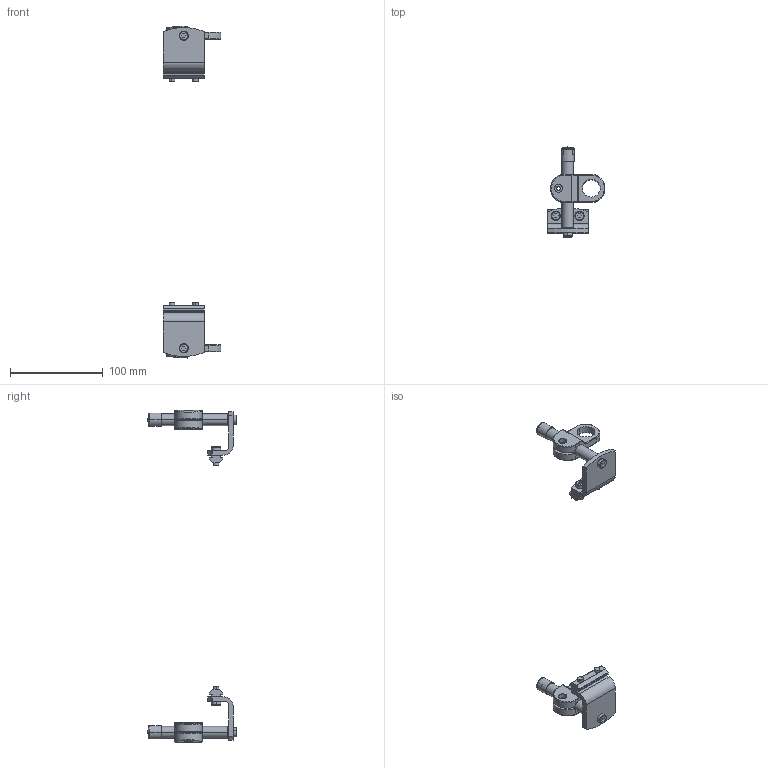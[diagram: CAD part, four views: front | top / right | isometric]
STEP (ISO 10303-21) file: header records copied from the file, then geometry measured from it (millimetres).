
FILE_DESCRIPTION((''),'2;1');
FILE_NAME('75M-PM-4_ASM','2020-05-22T',('james.horst'),(''),'PRO/ENGINEER BY PARAMETRIC TECHNOLOGY CORPORATION, 2012420','PRO/ENGINEER BY PARAMETRIC TECHNOLOGY CORPORATION, 2012420','');
FILE_SCHEMA(('CONFIG_CONTROL_DESIGN'));
Length unit declared in the file: inch
Products named in the file (11): DNR-75M-PM-4-10_STEP_920693M_1_; DNR-75M-PM-4-10_STEP_920692M_1_; DNR-75M-PM-4-10_STEP_200830M_1_; DNR-75M-PM-4-10_STEP_202004_1_1; 201104; DNR-75M-PM-4-10_STEP_807-948_1_; DNR-75M-PM-4-10_STEP_807-1391_1; DNR-75M-PM-4-10_STEP_ASM_1_ASM__ASM; 75M-PM-4_ASM_1_ASM_1_ASM; 75M-PM-4_ASM_1_ASM; 75M-PM-4_ASM
Assembly tree (19 placements, depth 5):
  75M-PM-4_ASM
    75M-PM-4_ASM_1_ASM
      75M-PM-4_ASM_1_ASM_1_ASM
        DNR-75M-PM-4-10_STEP_ASM_1_ASM__ASM
          DNR-75M-PM-4-10_STEP_920693M_1_  x4
          DNR-75M-PM-4-10_STEP_920692M_1_  x2
          DNR-75M-PM-4-10_STEP_200830M_1_  x2
          DNR-75M-PM-4-10_STEP_202004_1_1  x2
          201104  x2
          DNR-75M-PM-4-10_STEP_807-948_1_  x2
          DNR-75M-PM-4-10_STEP_807-1391_1  x2
Bounding box: 62.3 x 96.26 x 356.99 mm (x, y, z)
Volume: 83837.6 mm3; surface area: 46340.6 mm2
Topology: 16 solids, 18 shells, 384 faces, 906 edges, 570 vertices
Faces by surface type: cylinder 156, plane 152, cone 40, bspline 24, torus 12
Entity records: 6255 total; most frequent: CARTESIAN_POINT 1818, DIRECTION 949, ORIENTED_EDGE 818, EDGE_CURVE 411, AXIS2_PLACEMENT_3D 368, VERTEX_POINT 261, VECTOR 213, LINE 213
